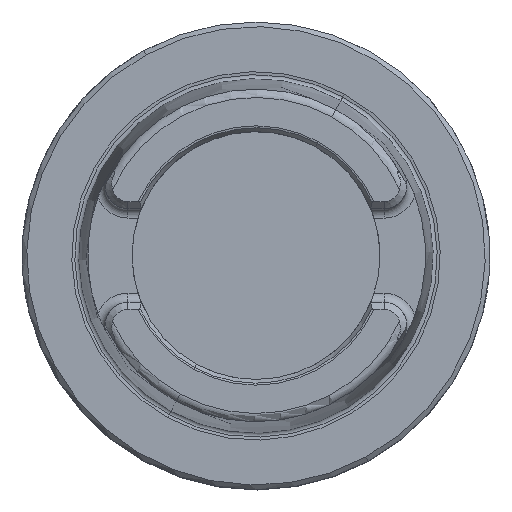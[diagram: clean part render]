
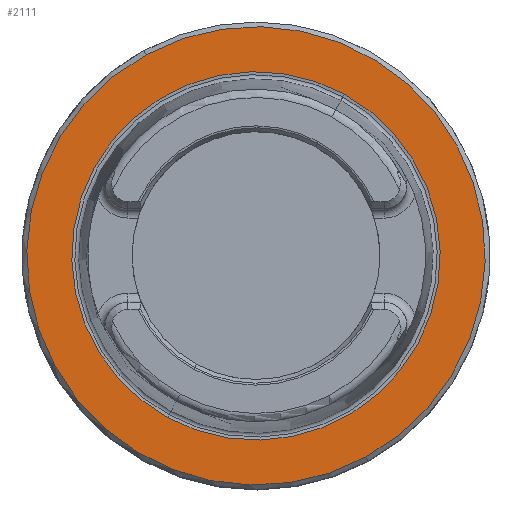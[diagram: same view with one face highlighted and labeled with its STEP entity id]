
A CAD part, top view. The second image highlights one B-rep face of the part: STEP entity #2111.
In plain terms, the highlighted planar face has unit normal (0, 0, 1).
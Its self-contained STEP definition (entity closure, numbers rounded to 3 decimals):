
#2053=AXIS2_PLACEMENT_3D('Circle Axis2P3D',#2051,#2052,$) ;
#2073=AXIS2_PLACEMENT_3D('Circle Axis2P3D',#2071,#2072,$) ;
#2087=AXIS2_PLACEMENT_3D('Plane Axis2P3D',#2084,#2085,#2086) ;
#2095=AXIS2_PLACEMENT_3D('Circle Axis2P3D',#2093,#2094,$) ;
#2104=AXIS2_PLACEMENT_3D('Circle Axis2P3D',#2102,#2103,$) ;
#2048=CARTESIAN_POINT('Vertex',(23.492,-43.002,0.)) ;
#2051=CARTESIAN_POINT('Axis2P3D Location',(0.,0.,0.)) ;
#2055=CARTESIAN_POINT('Vertex',(-23.492,43.002,0.)) ;
#2071=CARTESIAN_POINT('Axis2P3D Location',(0.,0.,0.)) ;
#2084=CARTESIAN_POINT('Axis2P3D Location',(0.,-38.285,0.)) ;
#2093=CARTESIAN_POINT('Axis2P3D Location',(0.,0.,0.)) ;
#2097=CARTESIAN_POINT('Vertex',(18.88,34.56,0.)) ;
#2099=CARTESIAN_POINT('Vertex',(-18.88,-34.56,0.)) ;
#2102=CARTESIAN_POINT('Axis2P3D Location',(0.,0.,0.)) ;
#2052=DIRECTION('Axis2P3D Direction',(0.,0.,-1.)) ;
#2072=DIRECTION('Axis2P3D Direction',(0.,0.,-1.)) ;
#2085=DIRECTION('Axis2P3D Direction',(0.,0.,-1.)) ;
#2086=DIRECTION('Axis2P3D XDirection',(-1.,0.,0.)) ;
#2094=DIRECTION('Axis2P3D Direction',(0.,0.,-1.)) ;
#2103=DIRECTION('Axis2P3D Direction',(0.,0.,-1.)) ;
#2090=ORIENTED_EDGE('',*,*,#2057,.F.) ;
#2091=ORIENTED_EDGE('',*,*,#2075,.F.) ;
#2108=ORIENTED_EDGE('',*,*,#2101,.T.) ;
#2109=ORIENTED_EDGE('',*,*,#2106,.T.) ;
#2110=FACE_BOUND('',#2107,.T.) ;
#2111=ADVANCED_FACE('NO_CUT',(#2092,#2110),#2088,.F.) ;
#2054=CIRCLE('generated circle',#2053,49.) ;
#2074=CIRCLE('generated circle',#2073,49.) ;
#2096=CIRCLE('generated circle',#2095,39.381) ;
#2105=CIRCLE('generated circle',#2104,39.381) ;
#2057=EDGE_CURVE('',#2049,#2056,#2054,.T.) ;
#2075=EDGE_CURVE('',#2056,#2049,#2074,.T.) ;
#2101=EDGE_CURVE('',#2098,#2100,#2096,.T.) ;
#2106=EDGE_CURVE('',#2100,#2098,#2105,.T.) ;
#2089=EDGE_LOOP('',(#2090,#2091)) ;
#2107=EDGE_LOOP('',(#2108,#2109)) ;
#2092=FACE_OUTER_BOUND('',#2089,.T.) ;
#2088=PLANE('',#2087) ;
#2049=VERTEX_POINT('',#2048) ;
#2056=VERTEX_POINT('',#2055) ;
#2098=VERTEX_POINT('',#2097) ;
#2100=VERTEX_POINT('',#2099) ;
